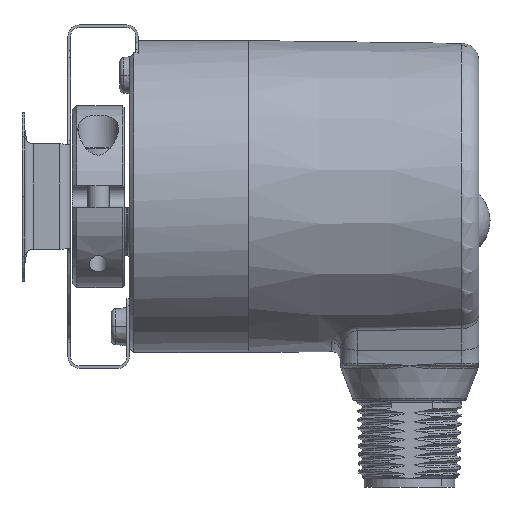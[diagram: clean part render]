
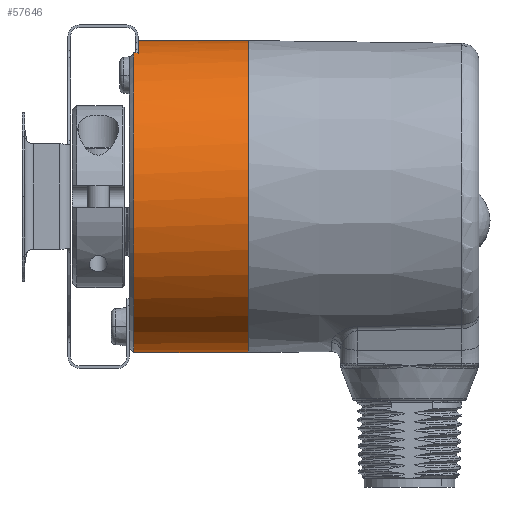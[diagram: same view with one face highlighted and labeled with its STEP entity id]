
A CAD part, front view. The second image highlights one B-rep face of the part: STEP entity #57646.
In plain terms, the highlighted cylindrical face has radius 18 mm (diameter 36 mm), a partial arc.
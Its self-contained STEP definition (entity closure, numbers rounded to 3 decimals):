
#22454 = CARTESIAN_POINT ( 'NONE',  ( 0.5, 0., -18. ) ) ;
#22557 = CARTESIAN_POINT ( 'NONE',  ( 0.5, -7., 16.583 ) ) ;
#22998 = DIRECTION ( 'NONE',  ( 0., 0., -1. ) ) ;
#22999 = DIRECTION ( 'NONE',  ( 1., 0., 0. ) ) ;
#23000 = AXIS2_PLACEMENT_3D ( 'NONE', #23006, #22999, #22998 ) ;
#23001 = CIRCLE ( 'NONE', #23000, 18. ) ;
#23006 = CARTESIAN_POINT ( 'NONE',  ( 0.5, 0., 0. ) ) ;
#29015 = DIRECTION ( 'NONE',  ( -1., 0., 0. ) ) ;
#29016 = VECTOR ( 'NONE', #29015, 1000. ) ;
#29017 = CARTESIAN_POINT ( 'NONE',  ( -1.958, 0., -18. ) ) ;
#29018 = LINE ( 'NONE', #29017, #29016 ) ;
#29036 = CARTESIAN_POINT ( 'NONE',  ( 1., 0., 18. ) ) ;
#29075 = DIRECTION ( 'NONE',  ( -1., 0., 0. ) ) ;
#29076 = VECTOR ( 'NONE', #29075, 1000. ) ;
#29077 = CARTESIAN_POINT ( 'NONE',  ( -1.958, 0., 18. ) ) ;
#29078 = LINE ( 'NONE', #29077, #29076 ) ;
#29079 = CARTESIAN_POINT ( 'NONE',  ( 13.7, 0., 18. ) ) ;
#29280 = CARTESIAN_POINT ( 'NONE',  ( 13.7, 0., -18. ) ) ;
#29556 = DIRECTION ( 'NONE',  ( 0., 0., 1. ) ) ;
#29557 = DIRECTION ( 'NONE',  ( -1., 0., 0. ) ) ;
#29558 = CARTESIAN_POINT ( 'NONE',  ( 13.7, 0., 0. ) ) ;
#29559 = AXIS2_PLACEMENT_3D ( 'NONE', #29558, #29557, #29556 ) ;
#29564 = CIRCLE ( 'NONE', #29559, 18. ) ;
#29597 = LINE ( 'NONE', #29648, #29647 ) ;
#29615 = DIRECTION ( 'NONE',  ( 0., 0., 1. ) ) ;
#29616 = DIRECTION ( 'NONE',  ( -1., 0., 0. ) ) ;
#29617 = CARTESIAN_POINT ( 'NONE',  ( 1., 0., 0. ) ) ;
#29618 = AXIS2_PLACEMENT_3D ( 'NONE', #29617, #29616, #29615 ) ;
#29619 = CIRCLE ( 'NONE', #29618, 18. ) ;
#29646 = DIRECTION ( 'NONE',  ( -1., 0., 0. ) ) ;
#29647 = VECTOR ( 'NONE', #29646, 1000. ) ;
#29648 = CARTESIAN_POINT ( 'NONE',  ( -1.958, -7., 16.583 ) ) ;
#29724 = CARTESIAN_POINT ( 'NONE',  ( 1., -7., 16.583 ) ) ;
#29755 = FACE_OUTER_BOUND ( 'NONE', #57575, .T. ) ;
#29783 = DIRECTION ( 'NONE',  ( 0., 0., 1. ) ) ;
#29784 = DIRECTION ( 'NONE',  ( -1., 0., 0. ) ) ;
#29785 = AXIS2_PLACEMENT_3D ( 'NONE', #29788, #29784, #29783 ) ;
#29786 = CYLINDRICAL_SURFACE ( 'NONE', #29785, 18. ) ;
#29788 = CARTESIAN_POINT ( 'NONE',  ( -1.958, 0., 0. ) ) ;
#56668 = VERTEX_POINT ( 'NONE', #22454 ) ;
#56700 = VERTEX_POINT ( 'NONE', #22557 ) ;
#56769 = EDGE_CURVE ( 'NONE', #56700, #56668, #23001, .T. ) ;
#57404 = EDGE_CURVE ( 'NONE', #57489, #56668, #29018, .T. ) ;
#57409 = VERTEX_POINT ( 'NONE', #29036 ) ;
#57420 = VERTEX_POINT ( 'NONE', #29079 ) ;
#57422 = EDGE_CURVE ( 'NONE', #57420, #57409, #29078, .T. ) ;
#57489 = VERTEX_POINT ( 'NONE', #29280 ) ;
#57532 = ORIENTED_EDGE ( 'NONE', *, *, #56769, .T. ) ;
#57534 = ORIENTED_EDGE ( 'NONE', *, *, #57404, .F. ) ;
#57541 = ORIENTED_EDGE ( 'NONE', *, *, #57609, .T. ) ;
#57575 = EDGE_LOOP ( 'NONE', ( #57534, #57606, #57647, #57592, #57541, #57532 ) ) ;
#57591 = EDGE_CURVE ( 'NONE', #57489, #57420, #29564, .T. ) ;
#57592 = ORIENTED_EDGE ( 'NONE', *, *, #57607, .F. ) ;
#57606 = ORIENTED_EDGE ( 'NONE', *, *, #57591, .T. ) ;
#57607 = EDGE_CURVE ( 'NONE', #57639, #57409, #29619, .T. ) ;
#57609 = EDGE_CURVE ( 'NONE', #57639, #56700, #29597, .T. ) ;
#57639 = VERTEX_POINT ( 'NONE', #29724 ) ;
#57646 = ADVANCED_FACE ( 'NONE', ( #29755 ), #29786, .T. ) ;
#57647 = ORIENTED_EDGE ( 'NONE', *, *, #57422, .T. ) ;
